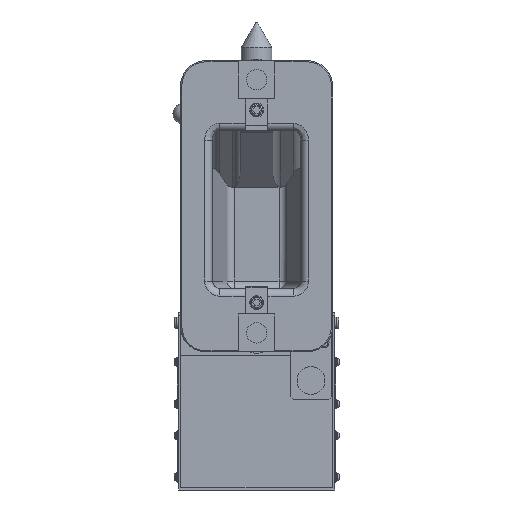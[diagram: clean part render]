
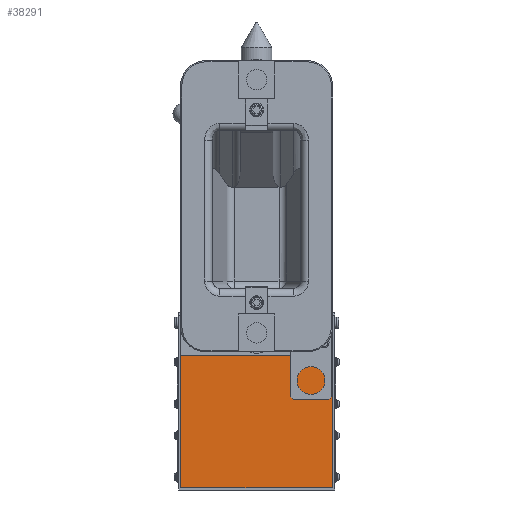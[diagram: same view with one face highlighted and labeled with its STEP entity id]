
A CAD part, front view. The second image highlights one B-rep face of the part: STEP entity #38291.
In plain terms, the highlighted planar face has unit normal (0, -1, 0).
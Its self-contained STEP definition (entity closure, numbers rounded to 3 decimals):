
#441 = CARTESIAN_POINT ( 'NONE',  ( -60., 40., -140. ) ) ;
#999 = VECTOR ( 'NONE', #9948, 1000. ) ;
#2902 = CARTESIAN_POINT ( 'NONE',  ( -60., 40., -33.5 ) ) ;
#3812 = CARTESIAN_POINT ( 'NONE',  ( 60., 40., -140. ) ) ;
#6838 = DIRECTION ( 'NONE',  ( 1., 0., 0. ) ) ;
#7403 = FACE_OUTER_BOUND ( 'NONE', #71901, .T. ) ;
#9948 = DIRECTION ( 'NONE',  ( 0., 0., 1. ) ) ;
#13219 = AXIS2_PLACEMENT_3D ( 'NONE', #441, #18908, #61653 ) ;
#16071 = ORIENTED_EDGE ( 'NONE', *, *, #35549, .F. ) ;
#18908 = DIRECTION ( 'NONE',  ( 0., -1., 0. ) ) ;
#19670 = VECTOR ( 'NONE', #20993, 1000. ) ;
#20932 = CARTESIAN_POINT ( 'NONE',  ( 60., 40., -33.5 ) ) ;
#20993 = DIRECTION ( 'NONE',  ( 0., 0., 1. ) ) ;
#21340 = DIRECTION ( 'NONE',  ( -1., 0., 0. ) ) ;
#21687 = EDGE_CURVE ( 'NONE', #75371, #71862, #24545, .T. ) ;
#23240 = ORIENTED_EDGE ( 'NONE', *, *, #76311, .T. ) ;
#24545 = LINE ( 'NONE', #43393, #65663 ) ;
#24555 = VECTOR ( 'NONE', #21340, 1000. ) ;
#29297 = ORIENTED_EDGE ( 'NONE', *, *, #65505, .T. ) ;
#29447 = ORIENTED_EDGE ( 'NONE', *, *, #21687, .T. ) ;
#33280 = CARTESIAN_POINT ( 'NONE',  ( -60., 40., -140. ) ) ;
#35549 = EDGE_CURVE ( 'NONE', #75371, #74526, #68417, .T. ) ;
#38291 = ADVANCED_FACE ( 'NONE', ( #7403 ), #61382, .T. ) ;
#39179 = CARTESIAN_POINT ( 'NONE',  ( 60., 40., -138.4 ) ) ;
#43368 = CARTESIAN_POINT ( 'NONE',  ( -60., 40., -138.4 ) ) ;
#43393 = CARTESIAN_POINT ( 'NONE',  ( -500000., 40., -138.4 ) ) ;
#49744 = LINE ( 'NONE', #3812, #999 ) ;
#52069 = CARTESIAN_POINT ( 'NONE',  ( -60., 40., -33.5 ) ) ;
#61382 = PLANE ( 'NONE',  #13219 ) ;
#61653 = DIRECTION ( 'NONE',  ( 0., 0., -1. ) ) ;
#63534 = VERTEX_POINT ( 'NONE', #20932 ) ;
#65505 = EDGE_CURVE ( 'NONE', #71862, #63534, #49744, .T. ) ;
#65663 = VECTOR ( 'NONE', #6838, 1000. ) ;
#68417 = LINE ( 'NONE', #33280, #19670 ) ;
#71862 = VERTEX_POINT ( 'NONE', #39179 ) ;
#71901 = EDGE_LOOP ( 'NONE', ( #29447, #29297, #23240, #16071 ) ) ;
#73261 = LINE ( 'NONE', #52069, #24555 ) ;
#74526 = VERTEX_POINT ( 'NONE', #2902 ) ;
#75371 = VERTEX_POINT ( 'NONE', #43368 ) ;
#76311 = EDGE_CURVE ( 'NONE', #63534, #74526, #73261, .T. ) ;
